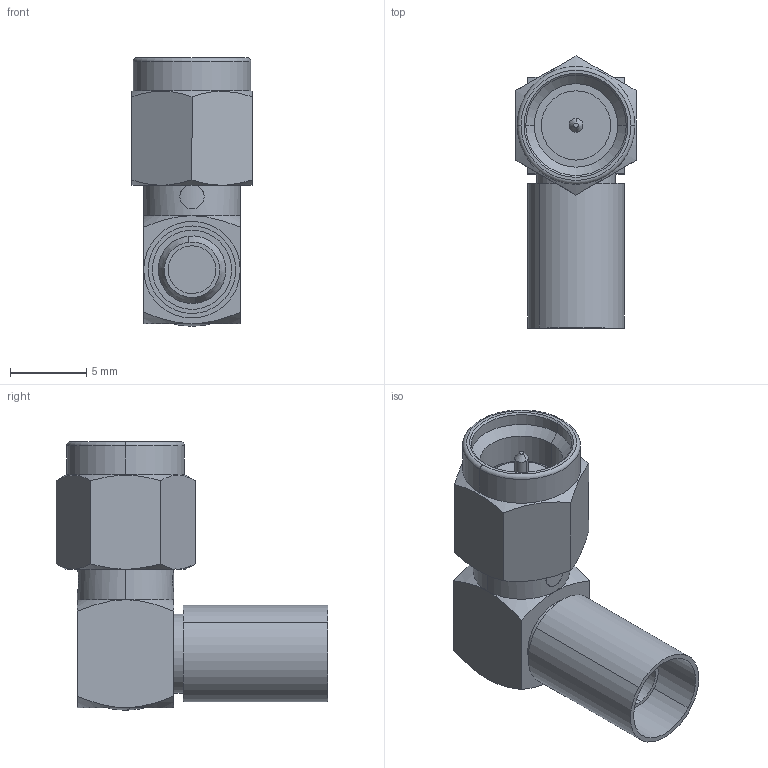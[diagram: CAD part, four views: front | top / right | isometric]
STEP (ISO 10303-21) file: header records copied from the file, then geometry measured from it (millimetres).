
FILE_DESCRIPTION (( 'STEP AP214' ), '1' );
FILE_NAME ('SF2910-6001.STEP', '2015-06-09T16:57:50', ( 'image' ), ( '' ), 'SwSTEP 2.0', 'SolidWorks 2014', '' );
FILE_SCHEMA (( 'AUTOMOTIVE_DESIGN' ));
Length unit declared in the file: inch
Products named in the file (1): SF2910-6001
Bounding box: 7.92 x 17.89 x 17.67 mm (x, y, z)
Volume: 777.9 mm3; surface area: 1281.5 mm2
Topology: 2 solids, 4 shells, 93 faces, 200 edges, 123 vertices
Faces by surface type: cylinder 38, cone 26, plane 25, torus 4
Entity records: 3881 total; most frequent: CARTESIAN_POINT 729, DIRECTION 436, ORIENTED_EDGE 396, EDGE_CURVE 198, AXIS2_PLACEMENT_3D 186, VERTEX_POINT 123, EDGE_LOOP 105, ADVANCED_FACE 93
